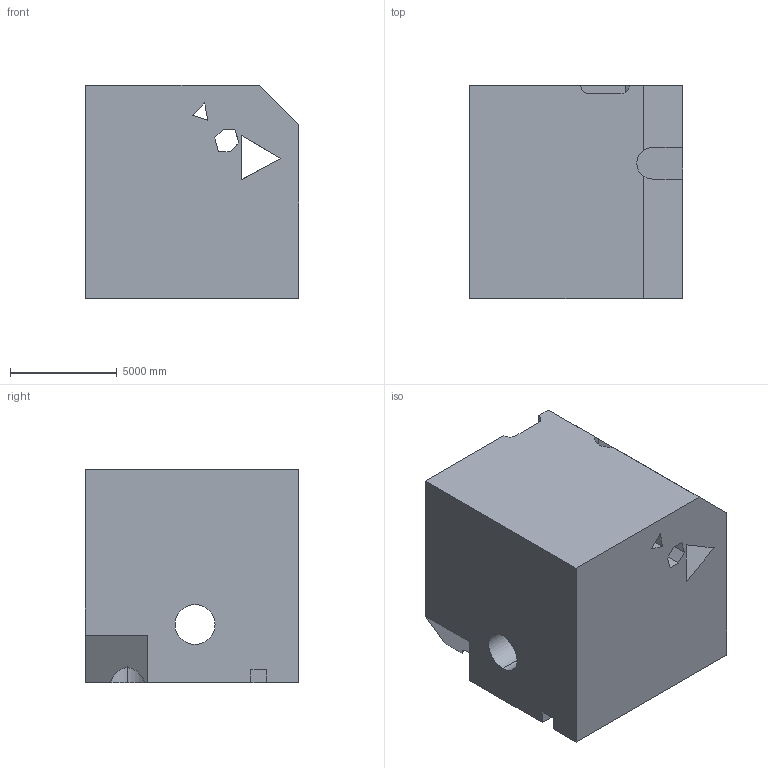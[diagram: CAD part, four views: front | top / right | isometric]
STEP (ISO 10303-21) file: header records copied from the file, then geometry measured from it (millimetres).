
FILE_DESCRIPTION (( 'STEP AP203' ), '1' );
FILE_NAME ('98.STEP', '2022-08-30T14:36:31', ( 'user' ), ( '' ), 'SwSTEP 2.0', 'SolidWorks 2021', '' );
FILE_SCHEMA (( 'CONFIG_CONTROL_DESIGN' ));
Length unit declared in the file: centimetre
Products named in the file (1): 98
Bounding box: 10000 x 10000 x 10000 mm (x, y, z)
Volume: 885882427090.6 mm3; surface area: 802572373.3 mm2
Topology: 1 solids, 1 shells, 41 faces, 132 edges, 88 vertices
Faces by surface type: plane 32, cylinder 9
Entity records: 1537 total; most frequent: CARTESIAN_POINT 298, ORIENTED_EDGE 264, DIRECTION 218, EDGE_CURVE 132, VECTOR 106, LINE 106, VERTEX_POINT 88, AXIS2_PLACEMENT_3D 56
